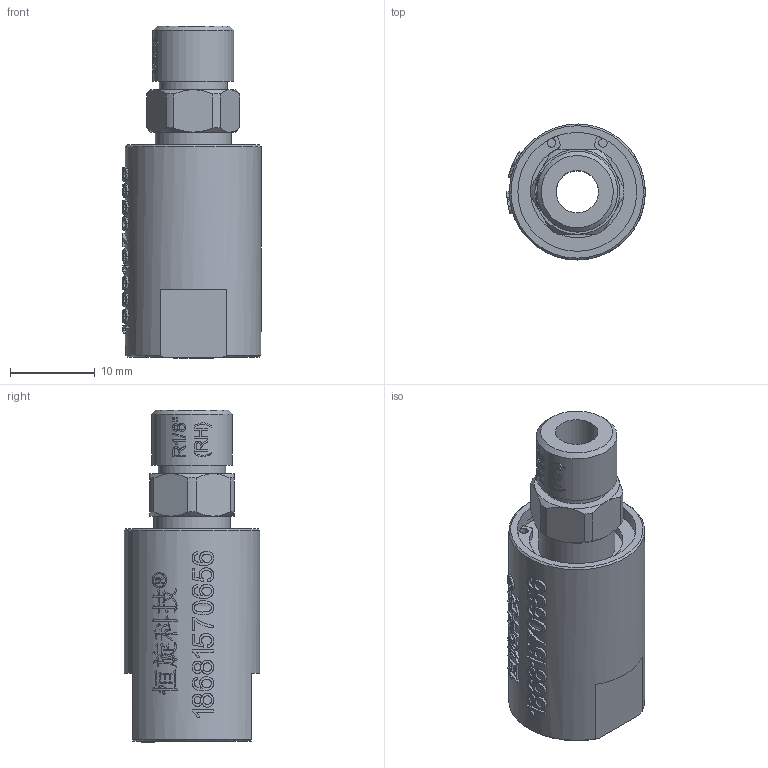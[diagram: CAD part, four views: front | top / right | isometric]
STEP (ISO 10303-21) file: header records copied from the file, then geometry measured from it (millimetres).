
FILE_DESCRIPTION(/* description */ (''),/* implementation_level */ '2;1');
FILE_NAME(/* name */ 'HYK0101(RH)-3D模型.stp',/* time_stamp */ '2025-07-09T08:18:49+08:00',/* author */ (''),/* organization */ (''),/* preprocessor_version */ 'ST-DEVELOPER v16.7',/* originating_system */ 'SIEMENS PLM Software NX 12.0',/* authorisation */ '');
FILE_SCHEMA (('AUTOMOTIVE_DESIGN { 1 0 10303 214 3 1 1 1 }'));
Length unit declared in the file: millimetre
Products named in the file (1): Admi1300D6723v6q
Bounding box: 16.3 x 16 x 39.1 mm (x, y, z)
Volume: 4756.2 mm3; surface area: 3198.1 mm2
Topology: 1 solids, 1 shells, 907 faces, 2487 edges, 1655 vertices
Faces by surface type: extrusion 496, plane 312, cylinder 45, bspline 38, cone 16
Full cylindrical faces by diameter (mm): 1 x2, 5 x1, 8 x1, 8.5 x1, 9 x1, 9.5 x1, 14 x1, 15 x1, 16 x1
Entity records: 36917 total; most frequent: CARTESIAN_POINT 17410, ORIENTED_EDGE 4940, EDGE_CURVE 2470, B_SPLINE_CURVE_WITH_KNOTS 2325, DIRECTION 2132, VERTEX_POINT 1650, EDGE_LOOP 994, ADVANCED_FACE 907
